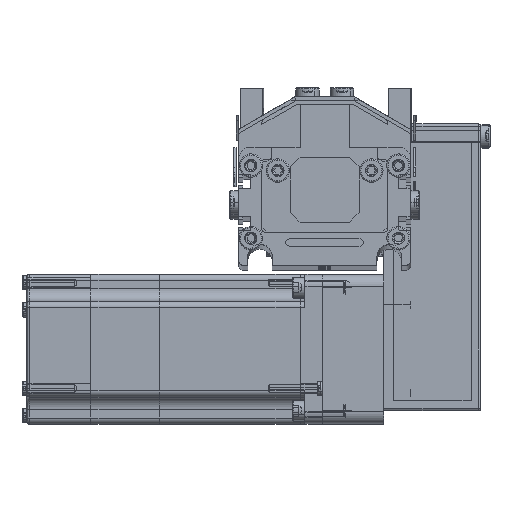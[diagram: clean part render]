
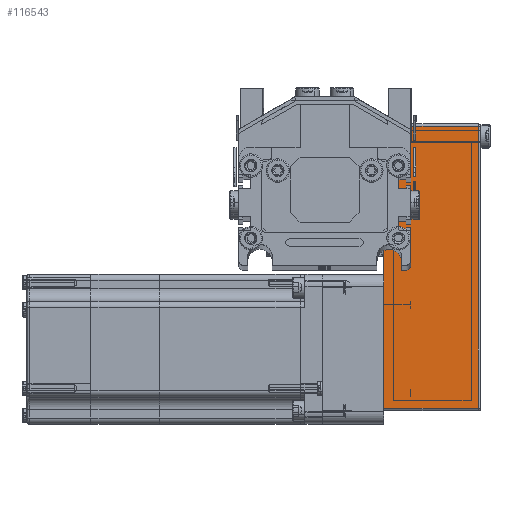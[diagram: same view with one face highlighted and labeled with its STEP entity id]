
A CAD part, top view. The second image highlights one B-rep face of the part: STEP entity #116543.
In plain terms, the highlighted planar face has unit normal (0, 0, 1) as drawn and (0, -1, 0) by its records, which use the part's own axes.
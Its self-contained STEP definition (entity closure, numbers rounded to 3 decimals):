
#49617 = AXIS2_PLACEMENT_3D ( 'NONE', #49771, #49878, #49875 ) ;
#49698 = FACE_OUTER_BOUND ( 'NONE', #117020, .T. ) ;
#49708 = CARTESIAN_POINT ( 'NONE',  ( 65.5, -25., 0. ) ) ;
#49771 = CARTESIAN_POINT ( 'NONE',  ( -50., -25., 39.5 ) ) ;
#49773 = PLANE ( 'NONE',  #49617 ) ;
#49868 = DIRECTION ( 'NONE',  ( 0., 0., -1. ) ) ;
#49870 = VECTOR ( 'NONE', #49868, 1000. ) ;
#49875 = DIRECTION ( 'NONE',  ( 0., 0., 1. ) ) ;
#49878 = DIRECTION ( 'NONE',  ( 0., 1., 0. ) ) ;
#49879 = CARTESIAN_POINT ( 'NONE',  ( -49., -25., 39.5 ) ) ;
#49880 = LINE ( 'NONE', #49879, #49870 ) ;
#67353 = DIRECTION ( 'NONE',  ( 1., 0., 0. ) ) ;
#67354 = VECTOR ( 'NONE', #67353, 1000. ) ;
#67357 = CARTESIAN_POINT ( 'NONE',  ( -50., -25., 0. ) ) ;
#67405 = LINE ( 'NONE', #67357, #67354 ) ;
#67417 = CARTESIAN_POINT ( 'NONE',  ( -49., -25., 0. ) ) ;
#67522 = VECTOR ( 'NONE', #67657, 1000. ) ;
#67546 = CARTESIAN_POINT ( 'NONE',  ( 65.5, -25., 38.5 ) ) ;
#67550 = CARTESIAN_POINT ( 'NONE',  ( -50., -25., 38.5 ) ) ;
#67552 = LINE ( 'NONE', #67550, #67522 ) ;
#67657 = DIRECTION ( 'NONE',  ( -1., 0., 0. ) ) ;
#67676 = CARTESIAN_POINT ( 'NONE',  ( -49., -25., 38.5 ) ) ;
#70244 = CARTESIAN_POINT ( 'NONE',  ( 65.5, -25., 39.5 ) ) ;
#70245 = LINE ( 'NONE', #70244, #70336 ) ;
#70335 = DIRECTION ( 'NONE',  ( 0., 0., 1. ) ) ;
#70336 = VECTOR ( 'NONE', #70335, 1000. ) ;
#116542 = VERTEX_POINT ( 'NONE', #49708 ) ;
#116543 = ADVANCED_FACE ( 'NONE', ( #49698 ), #49773, .F. ) ;
#116544 = ORIENTED_EDGE ( 'NONE', *, *, #117030, .T. ) ;
#116545 = EDGE_CURVE ( 'NONE', #117132, #117010, #49880, .T. ) ;
#116548 = ORIENTED_EDGE ( 'NONE', *, *, #116936, .T. ) ;
#116556 = ORIENTED_EDGE ( 'NONE', *, *, #117315, .T. ) ;
#116936 = EDGE_CURVE ( 'NONE', #117010, #116542, #67405, .T. ) ;
#117010 = VERTEX_POINT ( 'NONE', #67417 ) ;
#117020 = EDGE_LOOP ( 'NONE', ( #116544, #117077, #116548, #116556 ) ) ;
#117024 = VERTEX_POINT ( 'NONE', #67546 ) ;
#117030 = EDGE_CURVE ( 'NONE', #117024, #117132, #67552, .T. ) ;
#117077 = ORIENTED_EDGE ( 'NONE', *, *, #116545, .T. ) ;
#117132 = VERTEX_POINT ( 'NONE', #67676 ) ;
#117315 = EDGE_CURVE ( 'NONE', #116542, #117024, #70245, .T. ) ;
